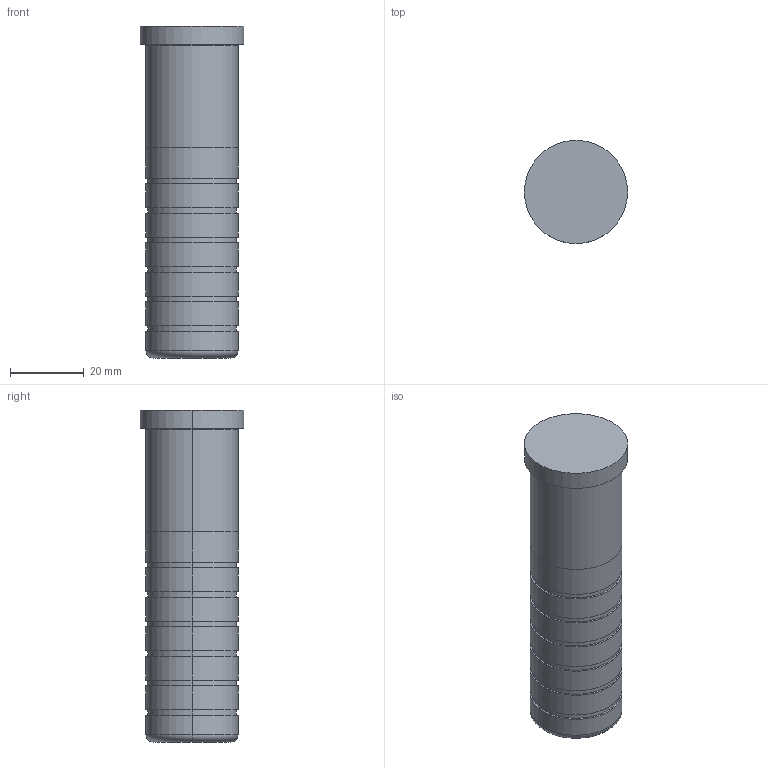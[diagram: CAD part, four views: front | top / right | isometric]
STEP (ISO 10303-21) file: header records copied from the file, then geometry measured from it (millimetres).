
FILE_DESCRIPTION(/* description */ (''),/* implementation_level */ '2;1');
FILE_NAME(/* name */ '3d_sgoh25-90_05202_r00.stp',/* time_stamp */ '2011-01-10T14:11:08+09:00',/* author */ ('MISUMI'),/* organization */ (''),/* preprocessor_version */ 'ST-DEVELOPER v11',/* originating_system */ 'UGS - NX 5.0',/* authorisation */ '');
FILE_SCHEMA (('CONFIG_CONTROL_DESIGN'));
Length unit declared in the file: millimetre
Products named in the file (1): 3d_sgoh25-90_05202_r00
Bounding box: 28 x 28 x 90 mm (x, y, z)
Volume: 44392.7 mm3; surface area: 8703.2 mm2
Topology: 1 solids, 1 shells, 49 faces, 96 edges, 62 vertices
Faces by surface type: cylinder 30, plane 15, torus 4
Entity records: 1374 total; most frequent: DIRECTION 262, CARTESIAN_POINT 208, ORIENTED_EDGE 192, AXIS2_PLACEMENT_3D 116, EDGE_CURVE 96, CIRCLE 66, EDGE_LOOP 62, VERTEX_POINT 62
